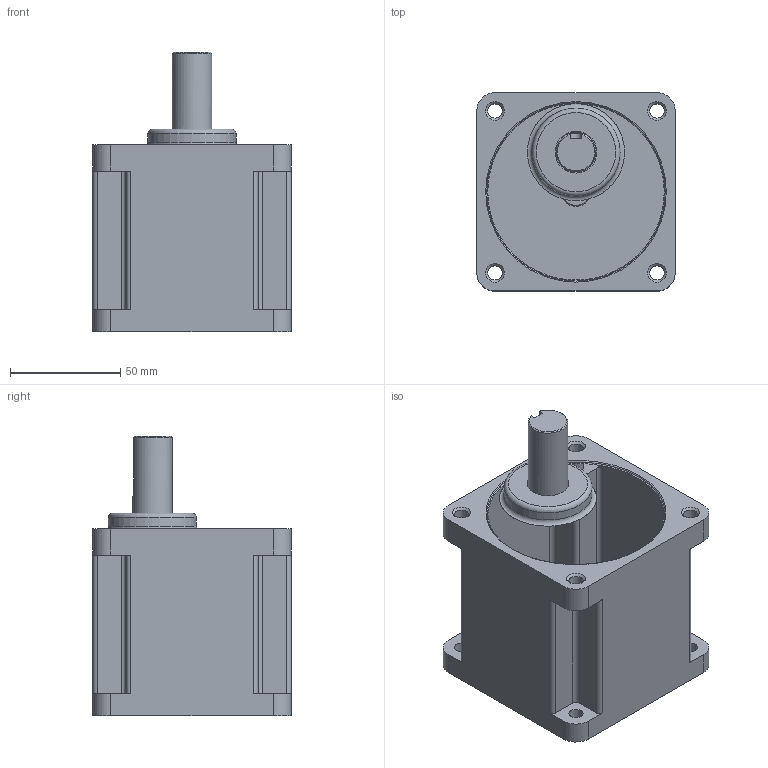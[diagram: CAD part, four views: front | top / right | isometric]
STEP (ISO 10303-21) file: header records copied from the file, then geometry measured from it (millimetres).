
FILE_DESCRIPTION((''),'2;1');
FILE_NAME('D:\미주향3D\GEAR HEAD\GEARHEAD\60W\S9KD3B~200B.stp','2013-12-13T12:10:44',('leebh'),(''),'Autodesk Inventor 2011','Autodesk Inventor 2011','');
FILE_SCHEMA(('AUTOMOTIVE_DESIGN { 1 0 10303 214 1 1 1 1 }'));
Length unit declared in the file: millimetre
Products named in the file (1): 부품3
Bounding box: 90 x 90 x 127 mm (x, y, z)
Volume: 620255 mm3; surface area: 53881.5 mm2
Topology: 1 solids, 1 shells, 79 faces, 205 edges, 133 vertices
Faces by surface type: cylinder 34, plane 31, cone 7, torus 4, bspline 3
Full cylindrical faces by diameter (mm): 6.5 x8, 12 x1, 18 x1, 19 x1, 40 x1, 83 x1
Entity records: 2477 total; most frequent: CARTESIAN_POINT 562, DIRECTION 399, ORIENTED_EDGE 356, EDGE_CURVE 178, AXIS2_PLACEMENT_3D 156, VERTEX_POINT 129, EDGE_LOOP 123, VECTOR 87
